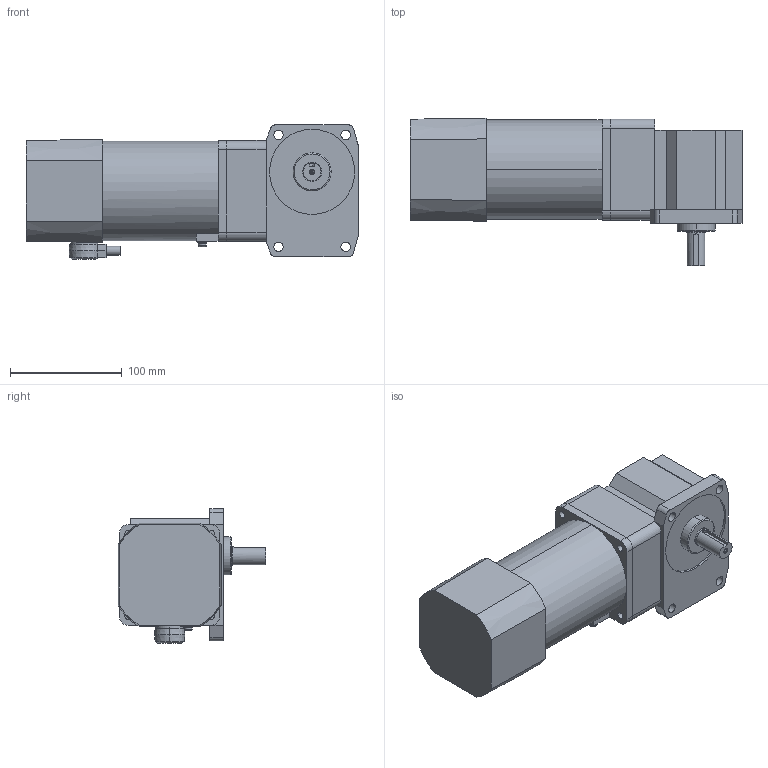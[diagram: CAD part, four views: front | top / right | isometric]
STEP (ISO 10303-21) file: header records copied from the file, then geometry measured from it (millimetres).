
FILE_DESCRIPTION(('starvars output'),'2;1');
FILE_NAME('5RK90GE-CW2ME _ 5GE90RAA.stp','14:18:29 2015/05/11',( 'Thomas Industrial Network Germany GmbH'),( 'Thomas Industrial Network Germany GmbH'),'unknown preprocess','ACIS' ,'unknown authorization');
FILE_SCHEMA(('AUTOMOTIVE_DESIGN_CC2 {UNKNOWN IMPLEMENTATION LEVEL}'));
Length unit declared in the file: millimetre
Products named in the file (1): PRODUCT_ID_636
Bounding box: 296.5 x 132 x 120 mm (x, y, z)
Volume: 2132139.9 mm3; surface area: 125308.1 mm2
Topology: 1 solids, 1 shells, 161 faces, 398 edges, 258 vertices
Faces by surface type: plane 80, cylinder 63, cone 14, torus 4
Entity records: 5650 total; most frequent: ORIENTED_EDGE 792, CARTESIAN_POINT 766, DIRECTION 650, EDGE_CURVE 396, VERTEX_POINT 258, AXIS2_PLACEMENT_3D 217, VECTOR 216, LINE 216
